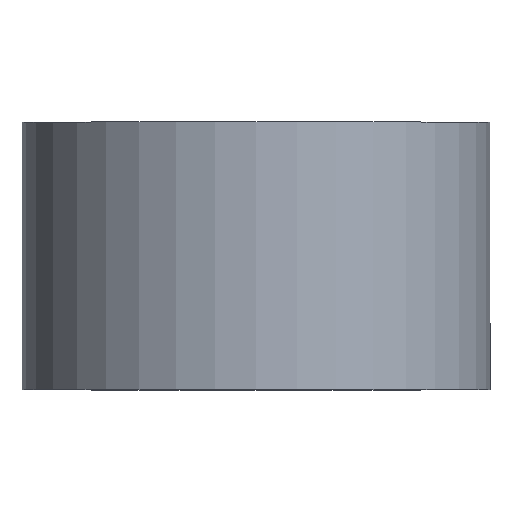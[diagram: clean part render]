
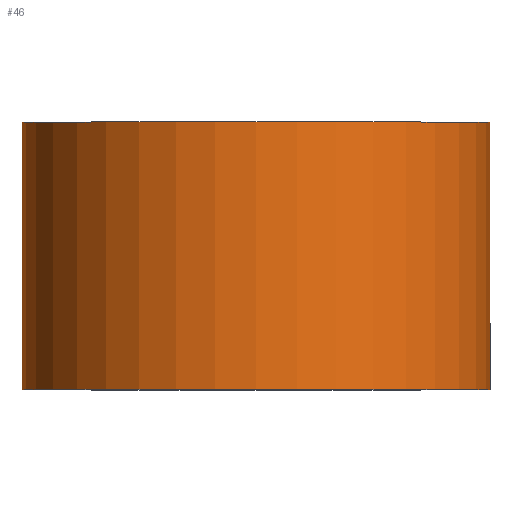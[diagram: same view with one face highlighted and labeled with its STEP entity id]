
A CAD part, top view. The second image highlights one B-rep face of the part: STEP entity #46.
In plain terms, the highlighted cylindrical face has radius 17.5 mm (diameter 35 mm), a partial arc.
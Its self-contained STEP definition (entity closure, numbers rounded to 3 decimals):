
#1 = EDGE_CURVE ( 'NONE', #163, #173, #136, .T. ) ;
#3 = EDGE_LOOP ( 'NONE', ( #235, #120, #282, #24 ) ) ;
#6 = DIRECTION ( 'NONE',  ( 0., 1., 0. ) ) ;
#7 = DIRECTION ( 'NONE',  ( -1., 0., 0. ) ) ;
#8 = CARTESIAN_POINT ( 'NONE',  ( -17.5, 0., 0. ) ) ;
#11 = CARTESIAN_POINT ( 'NONE',  ( 17.5, 20., 0. ) ) ;
#24 = ORIENTED_EDGE ( 'NONE', *, *, #268, .F. ) ;
#27 = DIRECTION ( 'NONE',  ( 0., 1., 0. ) ) ;
#32 = DIRECTION ( 'NONE',  ( -1., 0., 0. ) ) ;
#35 = CARTESIAN_POINT ( 'NONE',  ( 17.5, 0., 0. ) ) ;
#46 = ADVANCED_FACE ( 'NONE', ( #279 ), #262, .T. ) ;
#64 = EDGE_CURVE ( 'NONE', #92, #173, #69, .T. ) ;
#69 = LINE ( 'NONE', #101, #73 ) ;
#72 = CARTESIAN_POINT ( 'NONE',  ( 0., 20., 0. ) ) ;
#73 = VECTOR ( 'NONE', #215, 1000. ) ;
#74 = CARTESIAN_POINT ( 'NONE',  ( -17.5, 20., 0. ) ) ;
#92 = VERTEX_POINT ( 'NONE', #35 ) ;
#101 = CARTESIAN_POINT ( 'NONE',  ( 17.5, 0., 0. ) ) ;
#120 = ORIENTED_EDGE ( 'NONE', *, *, #64, .T. ) ;
#127 = VERTEX_POINT ( 'NONE', #8 ) ;
#136 = CIRCLE ( 'NONE', #140, 17.5 ) ;
#137 = AXIS2_PLACEMENT_3D ( 'NONE', #168, #170, #32 ) ;
#140 = AXIS2_PLACEMENT_3D ( 'NONE', #72, #27, #187 ) ;
#145 = CARTESIAN_POINT ( 'NONE',  ( -17.5, 0., 0. ) ) ;
#149 = DIRECTION ( 'NONE',  ( 0., 1., 0. ) ) ;
#159 = EDGE_CURVE ( 'NONE', #127, #92, #220, .T. ) ;
#163 = VERTEX_POINT ( 'NONE', #74 ) ;
#168 = CARTESIAN_POINT ( 'NONE',  ( 0., 0., 0. ) ) ;
#170 = DIRECTION ( 'NONE',  ( 0., 1., 0. ) ) ;
#173 = VERTEX_POINT ( 'NONE', #11 ) ;
#187 = DIRECTION ( 'NONE',  ( -1., 0., 0. ) ) ;
#215 = DIRECTION ( 'NONE',  ( 0., 1., 0. ) ) ;
#220 = CIRCLE ( 'NONE', #251, 17.5 ) ;
#232 = LINE ( 'NONE', #145, #234 ) ;
#234 = VECTOR ( 'NONE', #149, 1000. ) ;
#235 = ORIENTED_EDGE ( 'NONE', *, *, #159, .T. ) ;
#251 = AXIS2_PLACEMENT_3D ( 'NONE', #260, #6, #7 ) ;
#260 = CARTESIAN_POINT ( 'NONE',  ( 0., 0., 0. ) ) ;
#262 = CYLINDRICAL_SURFACE ( 'NONE', #137, 17.5 ) ;
#268 = EDGE_CURVE ( 'NONE', #127, #163, #232, .T. ) ;
#279 = FACE_OUTER_BOUND ( 'NONE', #3, .T. ) ;
#282 = ORIENTED_EDGE ( 'NONE', *, *, #1, .F. ) ;
